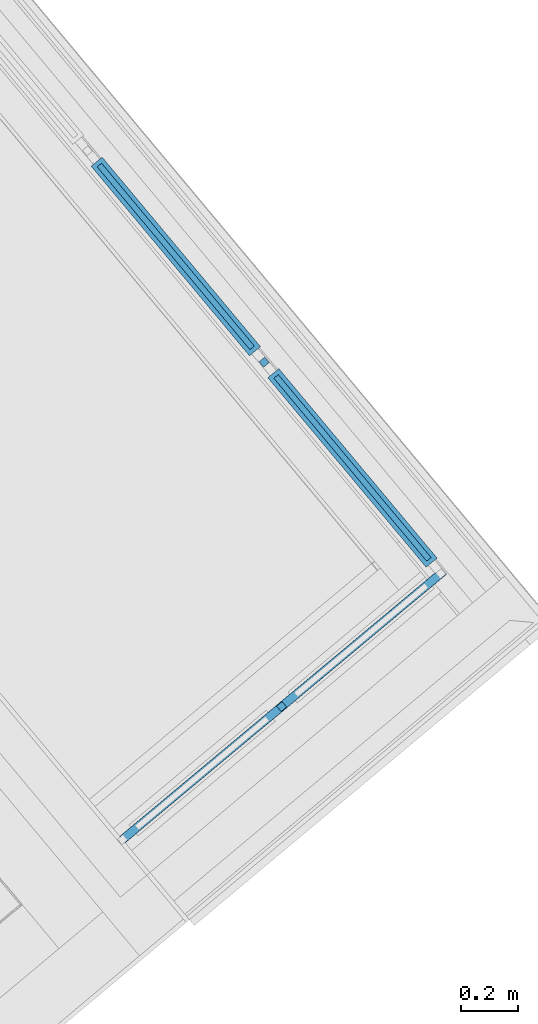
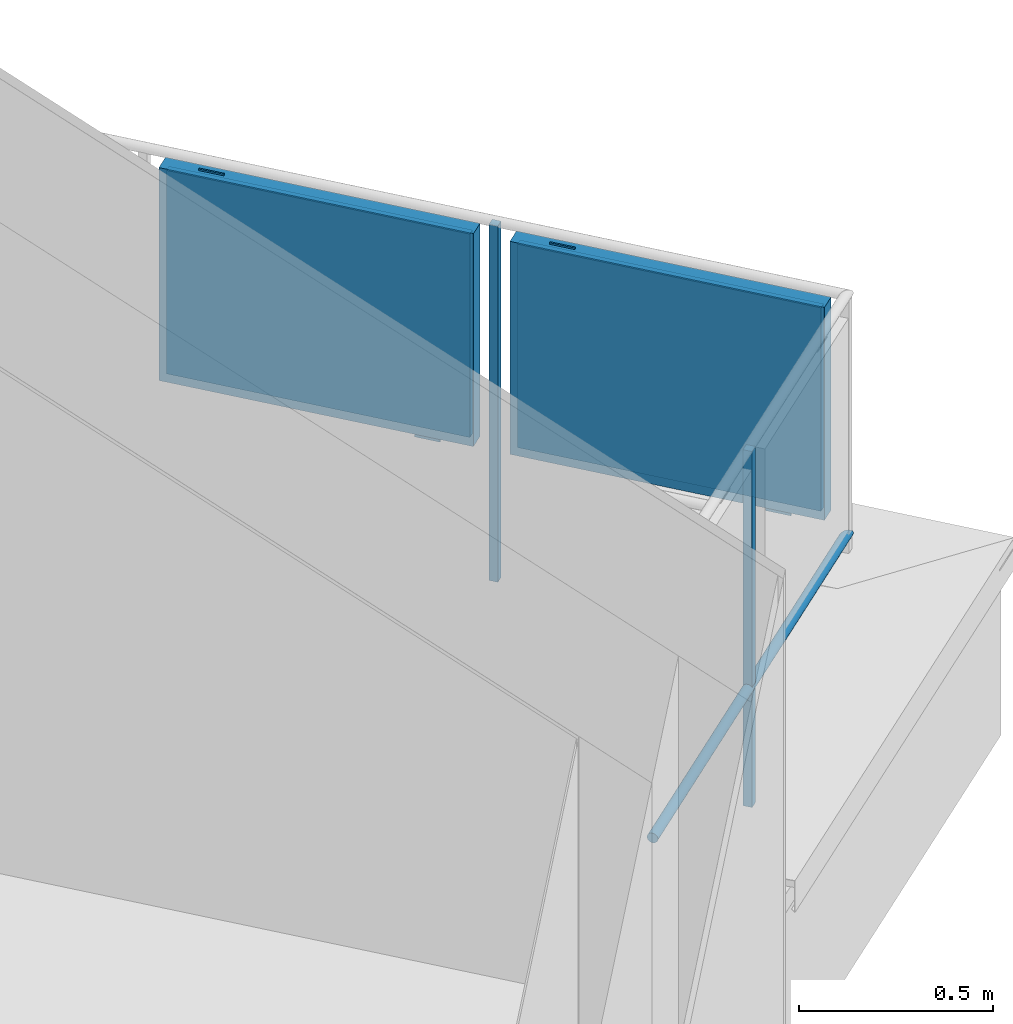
# One storey, part 29 of 50: 7 building element parts, 1 element without a shape of its own.
"""IFC4 building model written with IfcOpenShell, lengths in metres."""

from ifc_helpers import new_model, entity, si_unit, converted_unit, derived_unit, direction, frame, origin_with_axes, place, context, subcontext, project, spatial, polygons, material, type_object, element, aggregate, save


model = new_model("IFC4")

# Units and contexts
model_context = context("Model", 3, precision=1e-05, world=origin_with_axes(), true_north=direction((0.0, 1.0)))
body_context = subcontext(model_context, "Body", "Model", "MODEL_VIEW")
ifc_project = project(units=[si_unit("LENGTHUNIT", "METRE"), si_unit("AREAUNIT", "SQUARE_METRE"), si_unit("VOLUMEUNIT", "CUBIC_METRE"), converted_unit("PLANEANGLEUNIT", "DEGREE", entity("IfcPlaneAngleMeasure", 0.0174532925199), si_unit("PLANEANGLEUNIT", "RADIAN"), dimensions=[0, 0, 0, 0, 0, 0, 0]), converted_unit("TIMEUNIT", "Year", entity("IfcTimeMeasure", 31556926.0), si_unit("TIMEUNIT", "SECOND"), dimensions=[0, 0, 1, 0, 0, 0, 0]), si_unit("MASSUNIT", "GRAM", prefix="KILO"), si_unit("THERMODYNAMICTEMPERATUREUNIT", "DEGREE_CELSIUS"), si_unit("LUMINOUSINTENSITYUNIT", "LUMEN"), si_unit("ENERGYUNIT", "JOULE", prefix="MEGA"), derived_unit("THERMALCONDUCTANCEUNIT", [(si_unit("POWERUNIT", "WATT"), 1), (si_unit("LENGTHUNIT", "METRE"), -1), (si_unit("THERMODYNAMICTEMPERATUREUNIT", "KELVIN"), -1)]), derived_unit("SPECIFICHEATCAPACITYUNIT", [(si_unit("ENERGYUNIT", "JOULE"), 1), (si_unit("MASSUNIT", "GRAM", prefix="KILO"), -1), (si_unit("THERMODYNAMICTEMPERATUREUNIT", "KELVIN"), -1)]), derived_unit("MASSDENSITYUNIT", [(si_unit("MASSUNIT", "GRAM", prefix="KILO"), 1), (si_unit("VOLUMEUNIT", "CUBIC_METRE"), -1)])], contexts=[model_context])

# Site, building, storey
site_placement = place(None, frame((-0.00153261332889, -0.00661245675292, 0.0), z_axis=(0.0, 0.0, 1.0), x_axis=(1.0, 0.0, 0.0)))
site = spatial("IfcSite", under=ifc_project, at=site_placement, Name="Site", CompositionType="ELEMENT")
building_placement = place(site_placement, origin_with_axes())
building = spatial("IfcBuilding", under=site, at=building_placement, Name="Building", CompositionType="ELEMENT")
storey_placement = place(building_placement, frame((0.0, 0.0, 2.74), z_axis=(0.0, 0.0, 1.0), x_axis=(1.0, 0.0, 0.0)))
storey = spatial("IfcBuildingStorey", under=building, at=storey_placement, Name="OG1", CompositionType="ELEMENT", Elevation=2.74)

# Railing, building element parts
railing_type = type_object("IfcRailingType", Name="Geländerart", PredefinedType="NOTDEFINED")
railing_placement = place(storey_placement, frame((13.1317464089, 20.5971564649, 0.38), z_axis=(0.0, 0.0, 1.0), x_axis=(1.0, 0.0, 0.0)))
railing = element("IfcRailing", 1, at=railing_placement, inside=storey, type_object=railing_type, Name="Geländer - 001", PredefinedType="NOTDEFINED")
ifc_material_1 = material(Name="Aluminium")
building_element_part_1_placement = place(railing_placement, origin_with_axes())
building_element_part_1 = element("IfcBuildingElementPart", 2, at=building_element_part_1_placement, material=ifc_material_1, Name="Aluminium", PredefinedType="NOTDEFINED", context=body_context, shape_type="Tessellation", body=[
    polygons([(0.0224423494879, -0.0268577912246, 0.07), (0.0225884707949, -0.0270326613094, 0.072604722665), (1.12402507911, 0.893326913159, 0.072604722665), (1.12370408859, 0.893355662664, 0.07), (0.0225884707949, -0.0270326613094, 0.067395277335), (0.023022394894, -0.0275519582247, 0.0648696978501), (0.0237309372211, -0.0283999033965, 0.0625), (0.0246925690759, -0.02955073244, 0.0603581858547), (0.0258780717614, -0.0309694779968, 0.0585093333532), (0.0272514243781, -0.0326130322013, 0.0570096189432), (0.0287708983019, -0.0344314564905, 0.0559046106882), (0.0303903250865, -0.0363694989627, 0.0552278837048), (0.0320604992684, -0.038368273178, 0.055), (0.0337306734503, -0.0403670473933, 0.0552278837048), (0.0353501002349, -0.0423050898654, 0.0559046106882), (0.0368695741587, -0.0441235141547, 0.0570096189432), (0.0382429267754, -0.0457670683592, 0.0585093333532), (0.0394284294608, -0.047185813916, 0.0603581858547), (0.0403900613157, -0.0483366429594, 0.0625), (0.0410986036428, -0.0491845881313, 0.0648696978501), (0.0415325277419, -0.0497038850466, 0.067395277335), (0.0416786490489, -0.0498787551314, 0.07), (0.0415325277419, -0.0497038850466, 0.072604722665), (0.0410986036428, -0.0491845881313, 0.0751303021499), (0.0403900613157, -0.0483366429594, 0.0775), (0.0394284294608, -0.047185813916, 0.0796418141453), (0.0382429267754, -0.0457670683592, 0.0814906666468), (0.0368695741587, -0.0441235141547, 0.0829903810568), (0.0353501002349, -0.0423050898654, 0.0840953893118), (0.0337306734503, -0.0403670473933, 0.0847721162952), (0.0320604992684, -0.038368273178, 0.085), (0.0303903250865, -0.0363694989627, 0.0847721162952), (0.0287708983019, -0.0344314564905, 0.0840953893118), (0.0272514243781, -0.0326130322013, 0.0829903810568), (0.0258780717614, -0.0309694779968, 0.0814906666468), (0.0246925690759, -0.02955073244, 0.0796418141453), (0.0237309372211, -0.0283999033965, 0.0775), (0.023022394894, -0.0275519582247, 0.0751303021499), (1.12497829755, 0.893241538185, 0.0751303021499), (1.12653478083, 0.893102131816, 0.0775), (1.128647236, 0.892912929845, 0.0796418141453), (1.13125147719, 0.892679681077, 0.0814906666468), (1.13426837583, 0.892409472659, 0.0829903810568), (1.137606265, 0.892110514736, 0.0840953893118), (1.14116372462, 0.891791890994, 0.0847721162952), (1.14483266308, 0.891463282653, 0.085), (1.14850160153, 0.891134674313, 0.0847721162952), (1.15205906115, 0.890816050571, 0.0840953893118), (1.15539695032, 0.890517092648, 0.0829903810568), (1.15841384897, 0.89024688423, 0.0814906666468), (1.16101809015, 0.890013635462, 0.0796418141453), (1.16313054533, 0.889824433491, 0.0775), (1.16468702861, 0.889685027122, 0.0751303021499), (1.16564024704, 0.889599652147, 0.072604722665), (1.16596123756, 0.889570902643, 0.07), (1.16564024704, 0.889599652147, 0.067395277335), (1.16468702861, 0.889685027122, 0.0648696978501), (1.16313054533, 0.889824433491, 0.0625), (1.16101809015, 0.890013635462, 0.0603581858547), (1.15841384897, 0.89024688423, 0.0585093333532), (1.15539695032, 0.890517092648, 0.0570096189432), (1.15205906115, 0.890816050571, 0.0559046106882), (1.14850160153, 0.891134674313, 0.0552278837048), (1.14483266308, 0.891463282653, 0.055), (1.14116372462, 0.891791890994, 0.0552278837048), (1.137606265, 0.892110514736, 0.0559046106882), (1.13426837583, 0.892409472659, 0.0570096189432), (1.13125147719, 0.892679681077, 0.0585093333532), (1.128647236, 0.892912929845, 0.0603581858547), (1.12653478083, 0.893102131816, 0.0625), (1.12497829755, 0.893241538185, 0.0648696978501), (1.12402507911, 0.893326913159, 0.067395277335)], [[[1, 2, 3, 4]], [[1, 5, 6, 7, 8, 9, 10, 11, 12, 13, 14, 15, 16, 17, 18, 19, 20, 21, 22, 23, 24, 25, 26, 27, 28, 29, 30, 31, 32, 33, 34, 35, 36, 37, 38, 2]], [[2, 38, 39, 3]], [[4, 3, 39, 40, 41, 42, 43, 44, 45, 46, 47, 48, 49, 50, 51, 52, 53, 54, 55, 56, 57, 58, 59, 60, 61, 62, 63, 64, 65, 66, 67, 68, 69, 70, 71, 72]], [[5, 1, 4, 72]], [[6, 5, 72, 71]], [[7, 6, 71, 70]], [[8, 7, 70, 69]], [[9, 8, 69, 68]], [[10, 9, 68, 67]], [[11, 10, 67, 66]], [[12, 11, 66, 65]], [[13, 12, 65, 64]], [[14, 13, 64, 63]], [[15, 14, 63, 62]], [[16, 15, 62, 61]], [[17, 16, 61, 60]], [[18, 17, 60, 59]], [[19, 18, 59, 58]], [[20, 19, 58, 57]], [[21, 20, 57, 56]], [[22, 21, 56, 55]], [[23, 22, 55, 54]], [[24, 23, 54, 53]], [[25, 24, 53, 52]], [[26, 25, 52, 51]], [[27, 26, 51, 50]], [[28, 27, 50, 49]], [[29, 28, 49, 48]], [[30, 29, 48, 47]], [[31, 30, 47, 46]], [[32, 31, 46, 45]], [[33, 32, 45, 44]], [[34, 33, 44, 43]], [[35, 34, 43, 42]], [[36, 35, 42, 41]], [[37, 36, 41, 40]], [[38, 37, 40, 39]]], closed=True),
])
building_element_part_2_placement = place(railing_placement, origin_with_axes())
building_element_part_2 = element("IfcBuildingElementPart", 3, at=building_element_part_2_placement, material=ifc_material_1, Name="Aluminium", PredefinedType="NOTDEFINED", context=body_context, shape_type="Tessellation", body=[
    polygons([(0.606053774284, 0.42497056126, -0.3), (0.59002352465, 0.444154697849, -0.3), (0.59002352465, 0.444154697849, 0.82), (0.606053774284, 0.42497056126, 0.82), (0.586869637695, 0.408940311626, -0.3), (0.570839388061, 0.428124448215, -0.3), (0.570839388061, 0.428124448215, 0.82), (0.586869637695, 0.408940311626, 0.82)], [[[1, 2, 3, 4]], [[1, 5, 6, 2]], [[2, 6, 7, 3]], [[4, 3, 7, 8]], [[5, 1, 4, 8]], [[6, 5, 8, 7]]], closed=True),
])
ifc_material_2 = material(Name="Profilit")
building_element_part_3_placement = place(railing_placement, origin_with_axes())
building_element_part_3 = element("IfcBuildingElementPart", 4, at=building_element_part_3_placement, material=ifc_material_2, Name="Profilit", PredefinedType="NOTDEFINED", context=body_context, shape_type="Tessellation", body=[
    polygons([(0.561177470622, 1.57436173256, 0.135), (1.09548057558, 0.934930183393, 0.135), (1.09548057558, 0.934930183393, 0.775), (0.561177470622, 1.57436173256, 0.775), (1.11082794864, 0.947754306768, 0.135), (0.576524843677, 1.58718585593, 0.135), (1.11082794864, 0.947754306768, 0.775), (0.576524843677, 1.58718585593, 0.775)], [[[1, 2, 3, 4]], [[5, 2, 1, 6]], [[7, 3, 2, 5]], [[4, 3, 7, 8]], [[1, 4, 8, 6]], [[7, 5, 6, 8]]], closed=True),
])
building_element_part_4_placement = place(railing_placement, origin_with_axes())
building_element_part_4 = element("IfcBuildingElementPart", 5, at=building_element_part_4_placement, material=ifc_material_1, Name="Aluminium", PredefinedType="NOTDEFINED", context=body_context, shape_type="Tessellation", body=[
    polygons([(1.04673331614, 1.00496556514, 0.12), (1.00184888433, 1.05868137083, 0.12), (1.00184888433, 1.05868137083, 0.095), (1.04673331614, 1.00496556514, 0.095), (1.0505701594, 1.00817159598, 0.12), (1.00568572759, 1.06188740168, 0.12), (1.00568572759, 1.06188740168, 0.095), (1.0505701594, 1.00817159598, 0.095)], [[[1, 2, 3, 4]], [[5, 6, 2, 1]], [[2, 6, 7, 3]], [[4, 3, 7, 8]], [[1, 4, 8, 5]], [[8, 7, 6, 5]]], closed=True),
    polygons([(0.621435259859, 1.51394444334, 0.79), (0.66631969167, 1.46022863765, 0.79), (0.66631969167, 1.46022863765, 0.795), (0.621435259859, 1.51394444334, 0.795), (0.625272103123, 1.51715047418, 0.79), (0.670156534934, 1.46343466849, 0.79), (0.670156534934, 1.46343466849, 0.795), (0.625272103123, 1.51715047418, 0.795)], [[[1, 2, 3, 4]], [[5, 6, 2, 1]], [[2, 6, 7, 3]], [[4, 3, 7, 8]], [[1, 4, 8, 5]], [[8, 7, 6, 5]]], closed=True),
    polygons([(1.13195657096, 0.945861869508, 0.12), (1.09358813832, 0.913801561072, 0.12), (0.5400488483, 1.57625416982, 0.12), (0.578417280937, 1.60831447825, 0.12), (1.11913244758, 0.961209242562, 0.14), (1.10762191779, 0.951591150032, 0.14), (1.11082794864, 0.947754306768, 0.135), (1.09548057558, 0.934930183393, 0.135), (1.09227454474, 0.938767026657, 0.14), (1.08076401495, 0.929148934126, 0.14), (0.552872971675, 1.56090679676, 0.14), (0.552872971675, 1.56090679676, 0.77), (1.08076401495, 0.929148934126, 0.77), (1.08076401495, 0.929148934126, 0.14), (1.09358813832, 0.913801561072, 0.12), (1.09358813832, 0.913801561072, 0.79), (0.5400488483, 1.57625416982, 0.79), (0.578417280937, 1.60831447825, 0.79), (1.13195657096, 0.945861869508, 0.79), (1.13195657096, 0.945861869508, 0.12), (1.11913244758, 0.961209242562, 0.14), (1.11913244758, 0.961209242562, 0.77), (0.591241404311, 1.5929671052, 0.77), (0.591241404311, 1.5929671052, 0.14), (0.57973087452, 1.58334901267, 0.14), (0.57973087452, 1.58334901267, 0.77), (1.10762191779, 0.951591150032, 0.77), (1.10762191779, 0.951591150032, 0.14), (1.11082794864, 0.947754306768, 0.135), (1.11082794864, 0.947754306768, 0.775), (0.576524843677, 1.58718585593, 0.775), (0.576524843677, 1.58718585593, 0.135), (0.561177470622, 1.57436173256, 0.135), (0.561177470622, 1.57436173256, 0.775), (1.09548057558, 0.934930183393, 0.775), (1.09548057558, 0.934930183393, 0.135), (1.09227454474, 0.938767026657, 0.14), (1.09227454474, 0.938767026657, 0.77), (0.564383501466, 1.57052488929, 0.77), (0.564383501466, 1.57052488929, 0.14)], [[[1, 2, 3, 4]], [[1, 5, 6, 7, 8, 9, 10, 2]], [[2, 10, 11, 12, 13, 14, 15, 16, 17, 3]], [[4, 3, 17, 18]], [[5, 1, 4, 18, 19, 20, 21, 22, 23, 24]], [[6, 5, 24, 25]], [[7, 6, 25, 26, 27, 28, 29, 30, 31, 32]], [[8, 7, 32, 33]], [[9, 8, 33, 34, 35, 36, 37, 38, 39, 40]], [[10, 9, 40, 11]], [[11, 40, 39, 12]], [[12, 39, 38, 13]], [[13, 38, 37, 14]], [[20, 15, 14, 37, 36, 29, 28, 21]], [[19, 16, 15, 20]], [[18, 17, 16, 19]], [[27, 22, 21, 28]], [[26, 23, 22, 27]], [[25, 24, 23, 26]], [[35, 30, 29, 36]], [[34, 31, 30, 35]], [[33, 32, 31, 34]]], closed=True),
])
building_element_part_5_placement = place(railing_placement, origin_with_axes())
building_element_part_5 = element("IfcBuildingElementPart", 6, at=building_element_part_5_placement, material=ifc_material_1, Name="Aluminium", PredefinedType="NOTDEFINED", context=body_context, shape_type="Tessellation", body=[
    polygons([(0.528749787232, 1.64825994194, -0.3), (0.509565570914, 1.63222978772, -0.3), (0.509565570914, 1.63222978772, 0.82), (0.528749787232, 1.64825994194, 0.82), (0.544779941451, 1.62907572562, -0.3), (0.525595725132, 1.6130455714, -0.3), (0.525595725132, 1.6130455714, 0.82), (0.544779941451, 1.62907572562, 0.82)], [[[1, 2, 3, 4]], [[1, 5, 6, 2]], [[2, 6, 7, 3]], [[4, 3, 7, 8]], [[5, 1, 4, 8]], [[6, 5, 8, 7]]], closed=True),
])
building_element_part_6_placement = place(railing_placement, origin_with_axes())
building_element_part_6 = element("IfcBuildingElementPart", 7, at=building_element_part_6_placement, material=ifc_material_2, Name="Profilit", PredefinedType="NOTDEFINED", context=body_context, shape_type="Tessellation", body=[
    polygons([(-0.0564824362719, 2.31355120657, 0.135), (0.477820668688, 1.67411965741, 0.135), (0.477820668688, 1.67411965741, 0.775), (-0.0564824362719, 2.31355120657, 0.775), (0.493168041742, 1.68694378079, 0.135), (-0.0411350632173, 2.32637532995, 0.135), (0.493168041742, 1.68694378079, 0.775), (-0.0411350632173, 2.32637532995, 0.775)], [[[1, 2, 3, 4]], [[5, 2, 1, 6]], [[7, 3, 2, 5]], [[4, 3, 7, 8]], [[1, 4, 8, 6]], [[7, 5, 6, 8]]], closed=True),
])
building_element_part_7_placement = place(railing_placement, origin_with_axes())
building_element_part_7 = element("IfcBuildingElementPart", 8, at=building_element_part_7_placement, material=ifc_material_1, Name="Aluminium", PredefinedType="NOTDEFINED", context=body_context, shape_type="Tessellation", body=[
    polygons([(0.429073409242, 1.74415503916, 0.12), (0.384188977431, 1.79787084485, 0.12), (0.384188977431, 1.79787084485, 0.095), (0.429073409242, 1.74415503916, 0.095), (0.432910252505, 1.74736107, 0.12), (0.388025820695, 1.80107687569, 0.12), (0.388025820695, 1.80107687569, 0.095), (0.432910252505, 1.74736107, 0.095)], [[[1, 2, 3, 4]], [[5, 6, 2, 1]], [[2, 6, 7, 3]], [[4, 3, 7, 8]], [[1, 4, 8, 5]], [[8, 7, 6, 5]]], closed=True),
    polygons([(0.00377535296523, 2.25313391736, 0.79), (0.048659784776, 2.19941811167, 0.79), (0.048659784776, 2.19941811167, 0.795), (0.00377535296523, 2.25313391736, 0.795), (0.00761219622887, 2.2563399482, 0.79), (0.0524966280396, 2.20262414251, 0.79), (0.0524966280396, 2.20262414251, 0.795), (0.00761219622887, 2.2563399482, 0.795)], [[[1, 2, 3, 4]], [[5, 6, 2, 1]], [[2, 6, 7, 3]], [[4, 3, 7, 8]], [[1, 4, 8, 5]], [[8, 7, 6, 5]]], closed=True),
    polygons([(0.514296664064, 1.68505134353, 0.12), (0.475928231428, 1.65299103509, 0.12), (-0.0776110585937, 2.31544364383, 0.12), (-0.0392426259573, 2.34750395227, 0.12), (0.50147254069, 1.70039871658, 0.14), (0.489962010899, 1.69078062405, 0.14), (0.493168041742, 1.68694378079, 0.135), (0.477820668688, 1.67411965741, 0.135), (0.474614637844, 1.67795650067, 0.14), (0.463104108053, 1.66833840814, 0.14), (-0.0647869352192, 2.30009627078, 0.14), (-0.0647869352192, 2.30009627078, 0.77), (0.463104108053, 1.66833840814, 0.77), (0.463104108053, 1.66833840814, 0.14), (0.475928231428, 1.65299103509, 0.12), (0.475928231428, 1.65299103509, 0.79), (-0.0776110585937, 2.31544364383, 0.79), (-0.0392426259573, 2.34750395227, 0.79), (0.514296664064, 1.68505134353, 0.79), (0.514296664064, 1.68505134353, 0.12), (0.50147254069, 1.70039871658, 0.14), (0.50147254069, 1.70039871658, 0.77), (-0.0264185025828, 2.33215657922, 0.77), (-0.0264185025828, 2.33215657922, 0.14), (-0.0379290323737, 2.32253848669, 0.14), (-0.0379290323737, 2.32253848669, 0.77), (0.489962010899, 1.69078062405, 0.77), (0.489962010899, 1.69078062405, 0.14), (0.493168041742, 1.68694378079, 0.135), (0.493168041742, 1.68694378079, 0.775), (-0.0411350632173, 2.32637532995, 0.775), (-0.0411350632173, 2.32637532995, 0.135), (-0.0564824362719, 2.31355120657, 0.135), (-0.0564824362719, 2.31355120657, 0.775), (0.477820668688, 1.67411965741, 0.775), (0.477820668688, 1.67411965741, 0.135), (0.474614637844, 1.67795650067, 0.14), (0.474614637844, 1.67795650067, 0.77), (-0.0532764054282, 2.30971436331, 0.77), (-0.0532764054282, 2.30971436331, 0.14)], [[[1, 2, 3, 4]], [[1, 5, 6, 7, 8, 9, 10, 2]], [[2, 10, 11, 12, 13, 14, 15, 16, 17, 3]], [[4, 3, 17, 18]], [[5, 1, 4, 18, 19, 20, 21, 22, 23, 24]], [[6, 5, 24, 25]], [[7, 6, 25, 26, 27, 28, 29, 30, 31, 32]], [[8, 7, 32, 33]], [[9, 8, 33, 34, 35, 36, 37, 38, 39, 40]], [[10, 9, 40, 11]], [[11, 40, 39, 12]], [[12, 39, 38, 13]], [[13, 38, 37, 14]], [[20, 15, 14, 37, 36, 29, 28, 21]], [[19, 16, 15, 20]], [[18, 17, 16, 19]], [[27, 22, 21, 28]], [[26, 23, 22, 27]], [[25, 24, 23, 26]], [[35, 30, 29, 36]], [[34, 31, 30, 35]], [[33, 32, 31, 34]]], closed=True),
])
aggregate(railing, [building_element_part_1, building_element_part_2, building_element_part_3, building_element_part_4, building_element_part_5, building_element_part_6, building_element_part_7])

save(model, "model.ifc")
